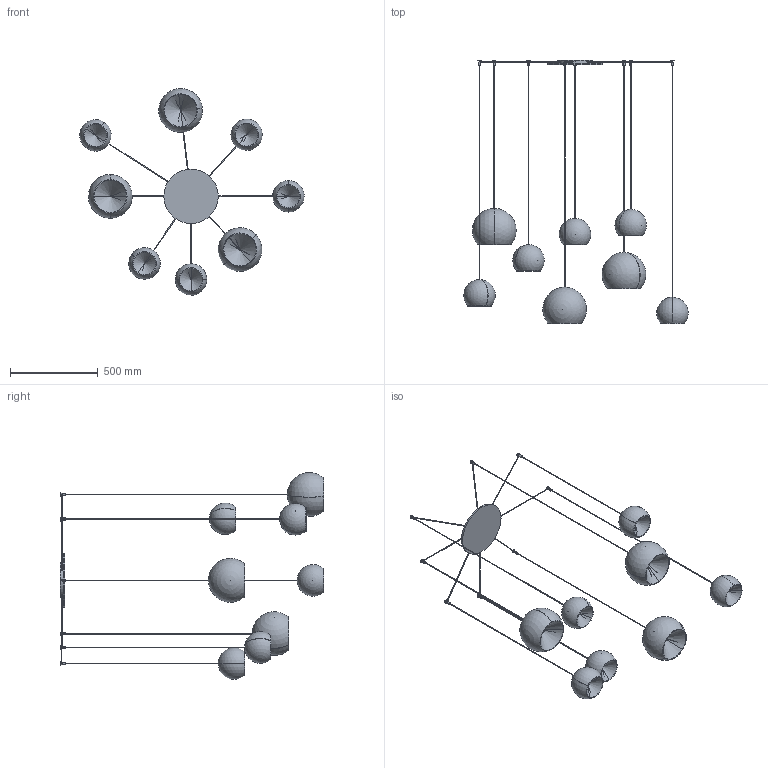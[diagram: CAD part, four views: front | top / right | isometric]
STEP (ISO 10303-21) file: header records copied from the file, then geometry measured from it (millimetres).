
FILE_DESCRIPTION (( 'STEP AP203' ), '1' );
FILE_NAME ('CRMA5-00-CHERRY MIX_8 sospensione.STEP', '2025-05-06T07:41:25', ( '' ), ( '' ), 'SwSTEP 2.0', 'SolidWorks 2022', '' );
FILE_SCHEMA (( 'CONFIG_CONTROL_DESIGN' ));
Length unit declared in the file: millimetre
Products named in the file (10): CHERRY_Lampada singola_Cherry 180 | H=1950; CHERRY_Lampada singola_Cherry 250 | H=1500; CHERRY_Lampada singola_Cherry 250 | H=1700; CRMA5-00-CHERRY MIX_8 sospensione; CHERRY_Lampada singola_Cherry 180 | H=2000; CHERRY_Lampada singola_Cherry 180 | H=1800; CHERRY_Lampada singola_Cherry 180 | H=1500; CHERRY_Lampada singola_Cherry 180 | H=1600; CHERRY_Rosone_Cherry 8 (x d.2200)<A macchina>; CHERRY_Lampada singola_Cherry 250 | H=1950
Assembly tree (9 placements, depth 2):
  CRMA5-00-CHERRY MIX_8 sospensione
    CHERRY_Rosone_Cherry 8 (x d.2200)<A macchina>
    CHERRY_Lampada singola_Cherry 180 | H=1600
    CHERRY_Lampada singola_Cherry 250 | H=1500
    CHERRY_Lampada singola_Cherry 180 | H=2000
    CHERRY_Lampada singola_Cherry 180 | H=1500
    CHERRY_Lampada singola_Cherry 250 | H=1700
    CHERRY_Lampada singola_Cherry 180 | H=1950
    CHERRY_Lampada singola_Cherry 180 | H=1800
    CHERRY_Lampada singola_Cherry 250 | H=1950
Bounding box: 1278.87 x 1500 x 1177.3 mm (x, y, z)
Volume: 3389066.1 mm3; surface area: 2592378.6 mm2
Topology: 41 solids, 41 shells, 313 faces, 738 edges, 460 vertices
Faces by surface type: cylinder 150, plane 99, sphere 32, cone 32
Entity records: 9708 total; most frequent: CARTESIAN_POINT 2083, DIRECTION 1508, ORIENTED_EDGE 1252, AXIS2_PLACEMENT_3D 669, EDGE_CURVE 626, VERTEX_POINT 412, EDGE_LOOP 346, CIRCLE 344
